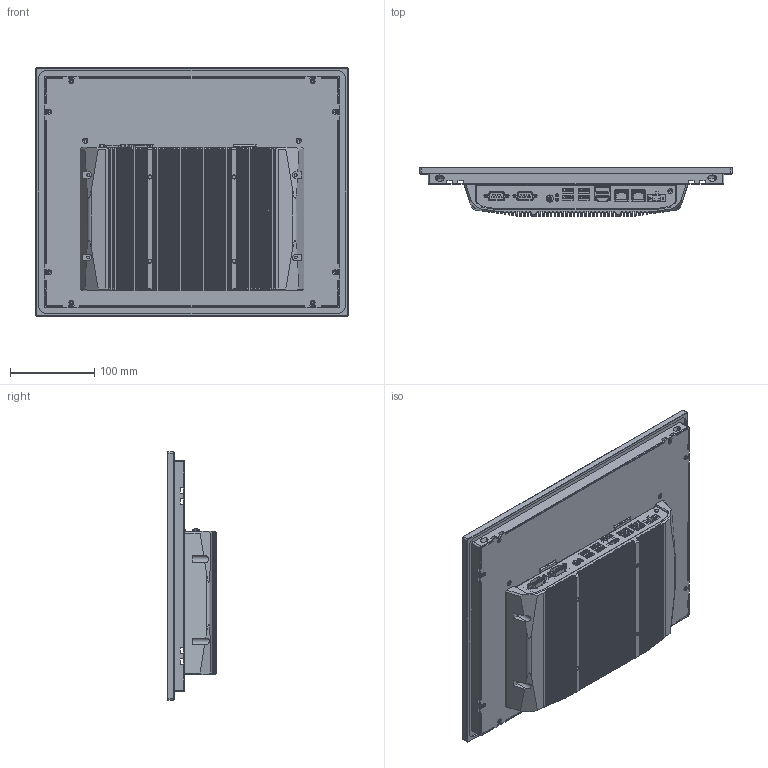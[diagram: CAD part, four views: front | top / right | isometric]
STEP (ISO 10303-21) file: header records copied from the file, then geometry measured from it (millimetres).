
FILE_DESCRIPTION (( 'STEP AP214' ), '1' );
FILE_NAME ('TPC-C150H-N S 3D蚾饜芞.STEP', '2024-08-21T06:42:31', ( 'demo' ), ( '' ), 'SwSTEP 2.0', 'SolidWorks 2016', '' );
FILE_SCHEMA (( 'AUTOMOTIVE_DESIGN' ));
Length unit declared in the file: millimetre
Products named in the file (1): TPC-C150H-N S 3D蚾饜芞
Bounding box: 371 x 58.5 x 295 mm (x, y, z)
Surface area: 500815.9 mm2 (no closed solid volume)
Topology: 0 solids, 79 shells, 2380 faces, 8982 edges, 6393 vertices
Faces by surface type: plane 1523, cylinder 764, cone 60, bspline 23, torus 10
Entity records: 121312 total; most frequent: CARTESIAN_POINT 22362, ORIENTED_EDGE 14769, DIRECTION 14089, EDGE_CURVE 8944, LINE 6645, VECTOR 6645, VERTEX_POINT 6393, AXIS2_PLACEMENT_3D 3722
